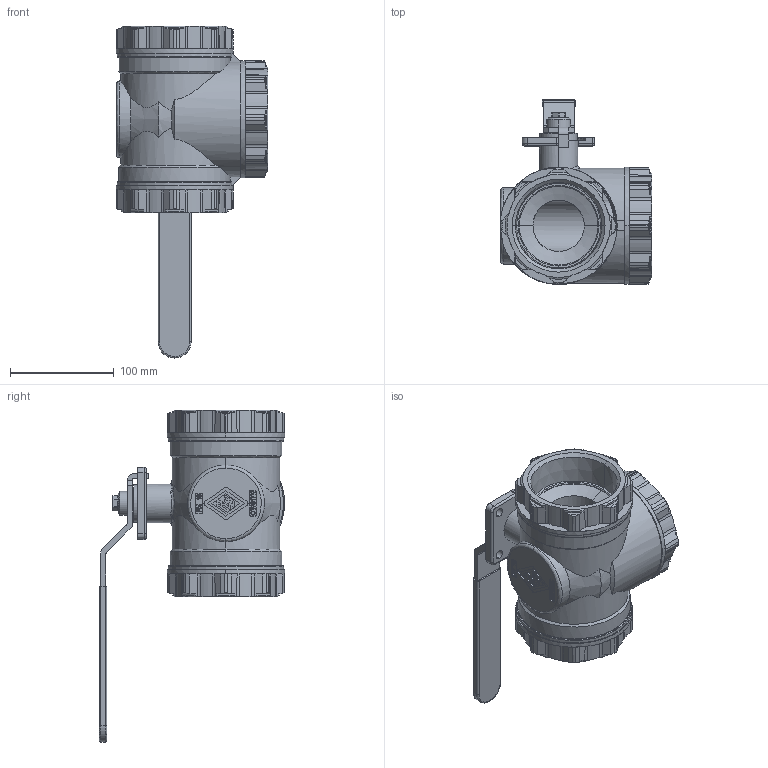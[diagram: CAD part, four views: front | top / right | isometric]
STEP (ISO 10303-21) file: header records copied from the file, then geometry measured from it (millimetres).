
FILE_DESCRIPTION (( 'STEP AP203' ), '1' );
FILE_NAME ('b2s-24t-w-handle.STEP', '2021-10-28T17:24:25', ( 'Owner' ), ( '' ), 'SwSTEP 2.0', 'SolidWorks 2017', '' );
FILE_SCHEMA (( 'CONFIG_CONTROL_DESIGN' ));
Length unit declared in the file: inch
Products named in the file (2): b2s-24t-w-handle
Bounding box: 146.49 x 178.49 x 320 mm (x, y, z)
Volume: 1332770.5 mm3; surface area: 173622 mm2
Topology: 1 solids, 1 shells, 983 faces, 2762 edges, 1808 vertices
Faces by surface type: plane 577, cone 204, cylinder 161, bspline 41
Entity records: 37196 total; most frequent: CARTESIAN_POINT 12013, ORIENTED_EDGE 5518, DIRECTION 4901, EDGE_CURVE 2759, VERTEX_POINT 1808, VECTOR 1747, LINE 1747, AXIS2_PLACEMENT_3D 1577
